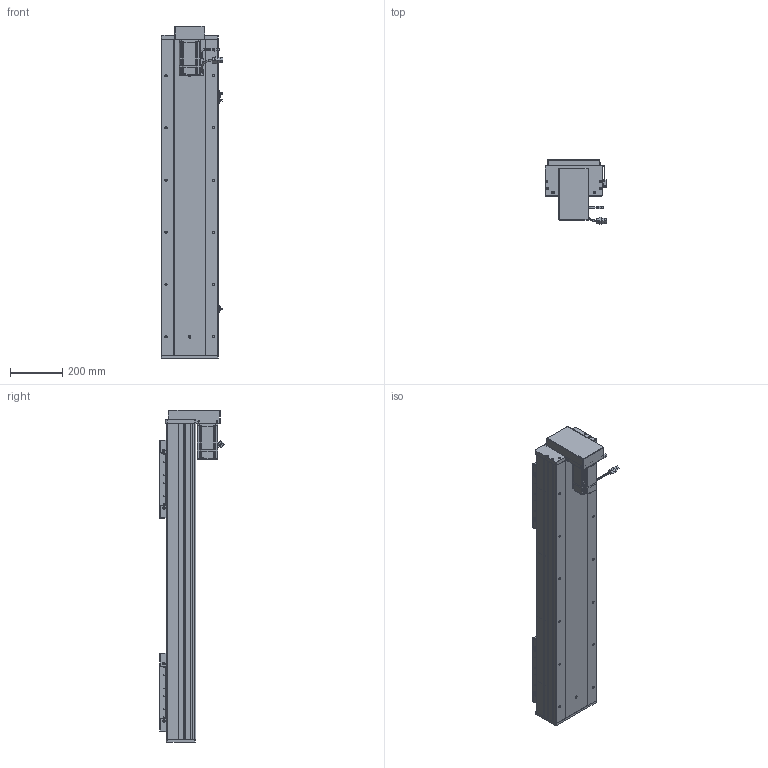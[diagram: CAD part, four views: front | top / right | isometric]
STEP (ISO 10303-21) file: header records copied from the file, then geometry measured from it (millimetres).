
FILE_DESCRIPTION (( 'STEP AP203' ), '1' );
FILE_NAME ('RY220F-L2525-300-BK.SLDASM_800.step', '2022-07-04T01:20:41', ( '' ), ( '' ), 'SwSTEP 2.0', 'SolidWorks 2016', '' );
FILE_SCHEMA (( 'CONFIG_CONTROL_DESIGN' ));
Length unit declared in the file: millimetre
Products named in the file (15): 侐源滅袉蝶; 滅袉蝶18-24; RY220F-滅鳥奻裔; 覜茼ん672; RY220F臏賑釱25-32佪裝; RY220F-蛌殏奻裔啣-300_800; RY220狟殏萇儂欶; RY220F蛌殏菁釱-300_800; RY220F-祥凄詩湍-蛌殏-300_800; RY220F綴裔啣; RY220F-672覜茼んえ; RY220F-詩湍揤踡輸; RY220狟殏萇儂假蚾啣; RY220F-L2525-300-BK.SLDASM_800; 怢湛750W_ECMA-CX0807ES
Assembly tree (24 placements, depth 2):
  RY220F-L2525-300-BK.SLDASM_800
    RY220F蛌殏菁釱-300_800
    RY220F-蛌殏奻裔啣-300_800  x2
    怢湛750W_ECMA-CX0807ES
    RY220F臏賑釱25-32佪裝  x2
    RY220F-滅鳥奻裔  x2
    滅袉蝶18-24  x3
    RY220F綴裔啣
    RY220F-祥凄詩湍-蛌殏-300_800
    RY220F-詩湍揤踡輸  x2
    覜茼ん672  x3
    RY220F-672覜茼んえ  x2
    侐源滅袉蝶  x2
    RY220狟殏萇儂假蚾啣
    RY220狟殏萇儂欶
Bounding box: 237.27 x 247.24 x 1271 mm (x, y, z)
Volume: 13102173.3 mm3; surface area: 3343011 mm2
Topology: 25 solids, 25 shells, 2719 faces, 7398 edges, 4589 vertices
Faces by surface type: cylinder 1202, plane 1062, cone 384, bspline 45, sphere 16, torus 10
Entity records: 67265 total; most frequent: CARTESIAN_POINT 18431, ORIENTED_EDGE 9898, DIRECTION 9537, EDGE_CURVE 4949, AXIS2_PLACEMENT_3D 3362, VERTEX_POINT 3205, VECTOR 2813, LINE 2813
